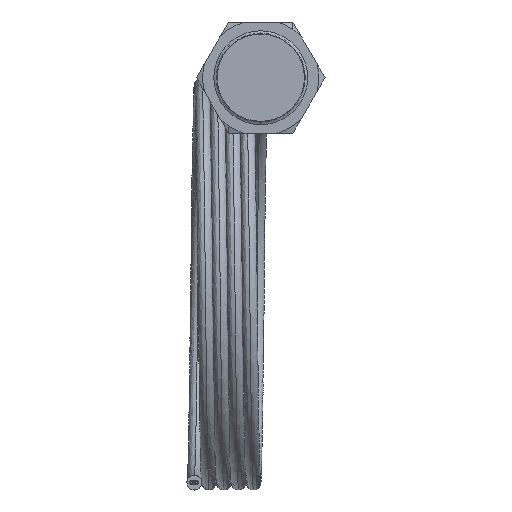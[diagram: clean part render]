
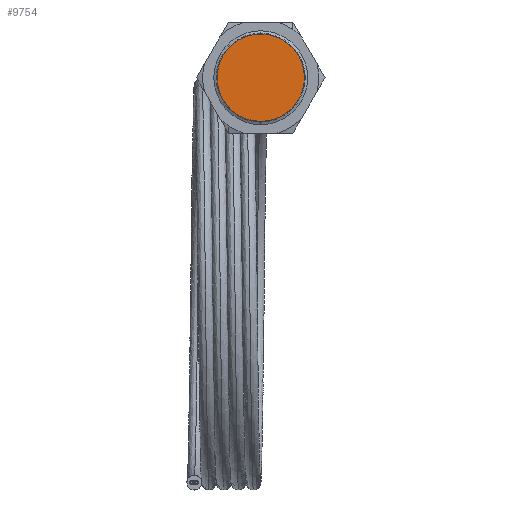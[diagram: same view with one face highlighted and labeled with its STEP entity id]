
A CAD part, left-side view. The second image highlights one B-rep face of the part: STEP entity #9754.
In plain terms, the highlighted planar face has unit normal (-1, 0, 0).
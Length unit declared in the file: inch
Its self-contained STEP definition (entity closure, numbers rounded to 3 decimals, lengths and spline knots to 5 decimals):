
#123 = CARTESIAN_POINT ( 'NONE',  ( 0., 0., 0.55 ) ) ;
#1162 = FACE_OUTER_BOUND ( 'NONE', #6897, .T. ) ;
#1163 = PLANE ( 'NONE',  #1164 ) ;
#1164 = AXIS2_PLACEMENT_3D ( 'NONE', #1165, #1166, #1167 ) ;
#1165 = CARTESIAN_POINT ( 'NONE',  ( 0., 0., 0. ) ) ;
#1166 = DIRECTION ( 'NONE',  ( 1., 0., 0. ) ) ;
#1167 = DIRECTION ( 'NONE',  ( 0., 0., -1. ) ) ;
#1999 = EDGE_CURVE ( 'NONE', #6870, #8123, #8782, .T. ) ;
#3562 = CARTESIAN_POINT ( 'NONE',  ( 0., 0., -0.55 ) ) ;
#4898 = ORIENTED_EDGE ( 'NONE', *, *, #6662, .F. ) ;
#6631 = ORIENTED_EDGE ( 'NONE', *, *, #1999, .F. ) ;
#6662 = EDGE_CURVE ( 'NONE', #8123, #6870, #8135, .T. ) ;
#6870 = VERTEX_POINT ( 'NONE', #123 ) ;
#6897 = EDGE_LOOP ( 'NONE', ( #6631, #4898 ) ) ;
#8123 = VERTEX_POINT ( 'NONE', #3562 ) ;
#8135 = CIRCLE ( 'NONE', #8136, 0.55 ) ;
#8136 = AXIS2_PLACEMENT_3D ( 'NONE', #8137, #8138, #8139 ) ;
#8137 = CARTESIAN_POINT ( 'NONE',  ( 0., 0., 0. ) ) ;
#8138 = DIRECTION ( 'NONE',  ( 1., 0., 0. ) ) ;
#8139 = DIRECTION ( 'NONE',  ( 0., 0., 1. ) ) ;
#8782 = CIRCLE ( 'NONE', #8783, 0.55 ) ;
#8783 = AXIS2_PLACEMENT_3D ( 'NONE', #8784, #8785, #8786 ) ;
#8784 = CARTESIAN_POINT ( 'NONE',  ( 0., 0., 0. ) ) ;
#8785 = DIRECTION ( 'NONE',  ( 1., 0., 0. ) ) ;
#8786 = DIRECTION ( 'NONE',  ( 0., 0., 1. ) ) ;
#9754 = ADVANCED_FACE ( 'NONE', ( #1162 ), #1163, .F. ) ;
